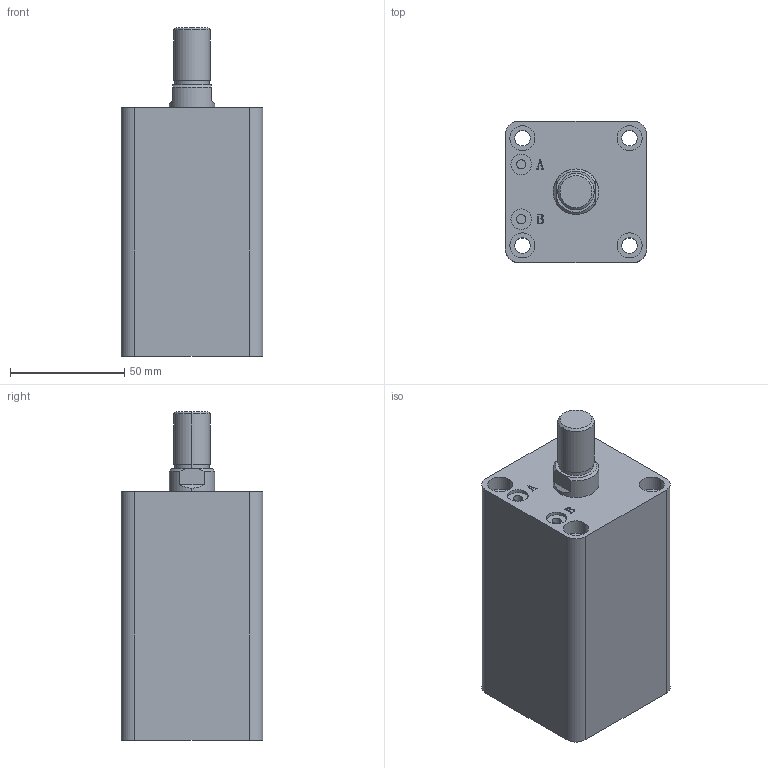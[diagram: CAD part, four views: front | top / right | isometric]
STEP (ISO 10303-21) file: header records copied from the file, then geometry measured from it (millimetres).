
FILE_DESCRIPTION (( 'STEP AP203' ), '1' );
FILE_NAME ('HTB-SDMA32-55W.STEP', '2019-10-07T11:42:10', ( '微软用户' ), ( '微软中国' ), 'SwSTEP 2.0', 'SolidWorks 2012', '' );
FILE_SCHEMA (( 'CONFIG_CONTROL_DESIGN' ));
Length unit declared in the file: millimetre
Products named in the file (3): HTB-SDMA32-55W; HTB-SDMA32-55W活塞杆; HTB-SDMA32-55掛极
Assembly tree (2 placements, depth 2):
  HTB-SDMA32-55W
    HTB-SDMA32-55掛极
    HTB-SDMA32-55W活塞杆
Bounding box: 62 x 62 x 144 mm (x, y, z)
Volume: 377221.6 mm3; surface area: 63909.7 mm2
Topology: 2 solids, 2 shells, 141 faces, 337 edges, 222 vertices
Faces by surface type: plane 67, cylinder 48, bspline 16, torus 6, cone 4
Entity records: 5176 total; most frequent: CARTESIAN_POINT 1593, ORIENTED_EDGE 674, DIRECTION 669, EDGE_CURVE 337, AXIS2_PLACEMENT_3D 242, VERTEX_POINT 222, VECTOR 185, LINE 185
